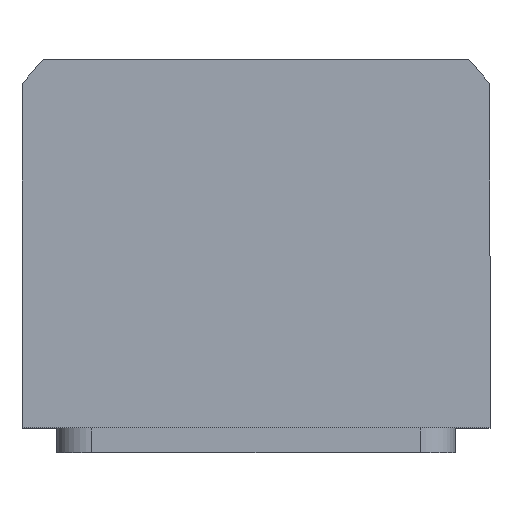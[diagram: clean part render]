
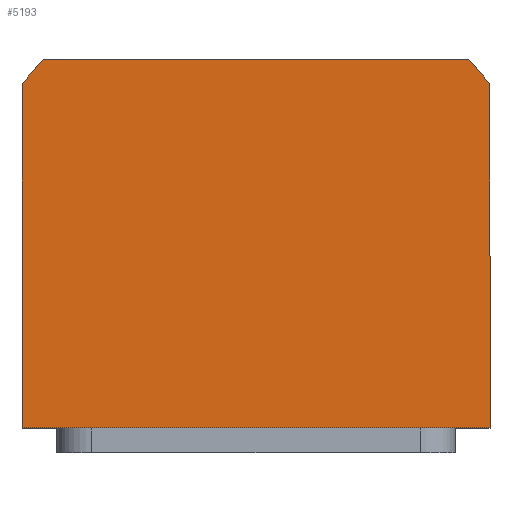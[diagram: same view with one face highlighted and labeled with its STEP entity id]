
A CAD part, top view. The second image highlights one B-rep face of the part: STEP entity #5193.
In plain terms, the highlighted planar face has unit normal (0, 0, 1).
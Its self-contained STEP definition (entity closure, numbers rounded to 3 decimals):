
#27 = DIRECTION ( 'NONE',  ( 0., -1., 0. ) ) ;
#465 = CARTESIAN_POINT ( 'NONE',  ( 0., 0., 45. ) ) ;
#1287 = VERTEX_POINT ( 'NONE', #12399 ) ;
#1360 = ORIENTED_EDGE ( 'NONE', *, *, #5519, .T. ) ;
#1839 = CARTESIAN_POINT ( 'NONE',  ( 0., 0., 45. ) ) ;
#1957 = LINE ( 'NONE', #3159, #3954 ) ;
#2845 = DIRECTION ( 'NONE',  ( 1., 0., 0. ) ) ;
#2859 = CARTESIAN_POINT ( 'NONE',  ( 0., 0., 45. ) ) ;
#3159 = CARTESIAN_POINT ( 'NONE',  ( -42.688, 40., 45. ) ) ;
#3204 = AXIS2_PLACEMENT_3D ( 'NONE', #465, #10992, #14478 ) ;
#3801 = FACE_OUTER_BOUND ( 'NONE', #12686, .T. ) ;
#3954 = VECTOR ( 'NONE', #13883, 1000. ) ;
#4645 = AXIS2_PLACEMENT_3D ( 'NONE', #2859, #7490, #8654 ) ;
#5034 = VECTOR ( 'NONE', #27, 1000. ) ;
#5118 = LINE ( 'NONE', #15072, #11956 ) ;
#5193 = ADVANCED_FACE ( 'NONE', ( #3801 ), #12253, .T. ) ;
#5312 = CIRCLE ( 'NONE', #3204, 58.5 ) ;
#5342 = CARTESIAN_POINT ( 'NONE',  ( -47., -34., 45. ) ) ;
#5519 = EDGE_CURVE ( 'NONE', #7908, #11483, #1957, .T. ) ;
#6406 = VERTEX_POINT ( 'NONE', #6455 ) ;
#6428 = CARTESIAN_POINT ( 'NONE',  ( 47., -34., 45. ) ) ;
#6455 = CARTESIAN_POINT ( 'NONE',  ( 47., 34.832, 45. ) ) ;
#6626 = AXIS2_PLACEMENT_3D ( 'NONE', #1839, #12561, #6660 ) ;
#6660 = DIRECTION ( 'NONE',  ( 1., 0., 0. ) ) ;
#7031 = VECTOR ( 'NONE', #2845, 1000. ) ;
#7310 = EDGE_CURVE ( 'NONE', #1287, #13314, #7440, .T. ) ;
#7440 = LINE ( 'NONE', #12898, #5034 ) ;
#7490 = DIRECTION ( 'NONE',  ( 0., 0., 1. ) ) ;
#7551 = EDGE_CURVE ( 'NONE', #6406, #7908, #5312, .T. ) ;
#7896 = EDGE_CURVE ( 'NONE', #12282, #6406, #5118, .T. ) ;
#7908 = VERTEX_POINT ( 'NONE', #12523 ) ;
#7980 = DIRECTION ( 'NONE',  ( 0., 1., 0. ) ) ;
#8654 = DIRECTION ( 'NONE',  ( 1., 0., 0. ) ) ;
#9842 = CARTESIAN_POINT ( 'NONE',  ( 47., -34., 45. ) ) ;
#9882 = ORIENTED_EDGE ( 'NONE', *, *, #7551, .T. ) ;
#10419 = EDGE_CURVE ( 'NONE', #11483, #1287, #13757, .T. ) ;
#10669 = ORIENTED_EDGE ( 'NONE', *, *, #7896, .T. ) ;
#10992 = DIRECTION ( 'NONE',  ( 0., 0., 1. ) ) ;
#11035 = ORIENTED_EDGE ( 'NONE', *, *, #7310, .T. ) ;
#11483 = VERTEX_POINT ( 'NONE', #12674 ) ;
#11579 = ORIENTED_EDGE ( 'NONE', *, *, #13106, .T. ) ;
#11956 = VECTOR ( 'NONE', #7980, 1000. ) ;
#12253 = PLANE ( 'NONE',  #4645 ) ;
#12282 = VERTEX_POINT ( 'NONE', #9842 ) ;
#12399 = CARTESIAN_POINT ( 'NONE',  ( -47., 34.832, 45. ) ) ;
#12523 = CARTESIAN_POINT ( 'NONE',  ( 42.688, 40., 45. ) ) ;
#12561 = DIRECTION ( 'NONE',  ( 0., 0., 1. ) ) ;
#12674 = CARTESIAN_POINT ( 'NONE',  ( -42.688, 40., 45. ) ) ;
#12686 = EDGE_LOOP ( 'NONE', ( #11579, #10669, #9882, #1360, #13313, #11035 ) ) ;
#12898 = CARTESIAN_POINT ( 'NONE',  ( -47., -34., 45. ) ) ;
#13106 = EDGE_CURVE ( 'NONE', #13314, #12282, #13675, .T. ) ;
#13313 = ORIENTED_EDGE ( 'NONE', *, *, #10419, .T. ) ;
#13314 = VERTEX_POINT ( 'NONE', #5342 ) ;
#13675 = LINE ( 'NONE', #6428, #7031 ) ;
#13757 = CIRCLE ( 'NONE', #6626, 58.5 ) ;
#13883 = DIRECTION ( 'NONE',  ( -1., 0., 0. ) ) ;
#14478 = DIRECTION ( 'NONE',  ( 1., 0., 0. ) ) ;
#15072 = CARTESIAN_POINT ( 'NONE',  ( 47., 34.832, 45. ) ) ;
